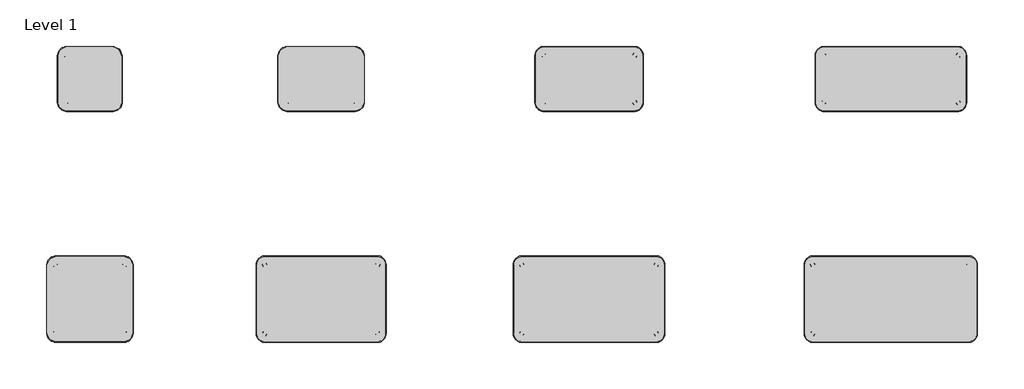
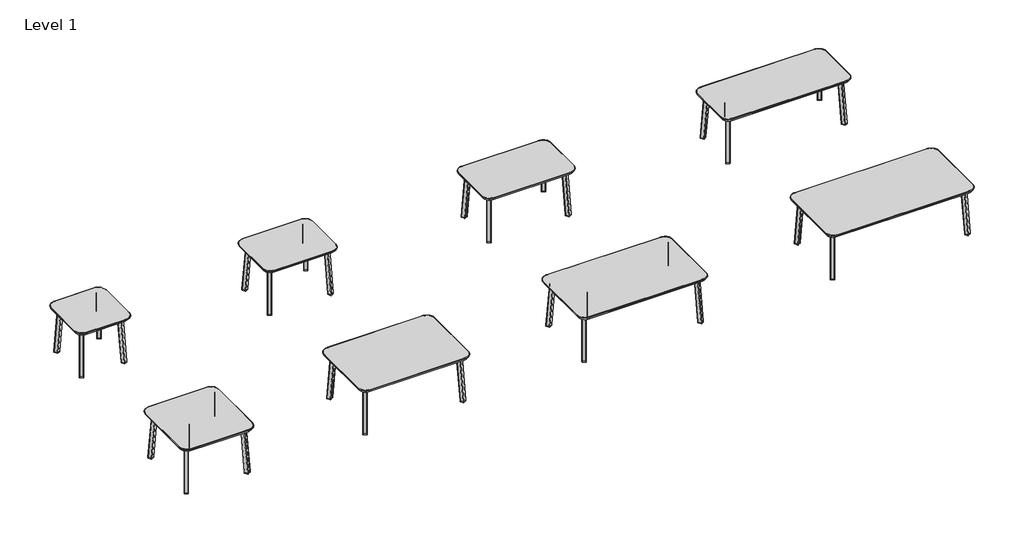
# One storey: 8 furniture elements.
"""IFC4 building model written with IfcOpenShell, lengths in millimetres."""

from ifc_helpers import new_model, si_unit, origin, place, context, project, spatial, transform, mapped, element, save
from components import furniture_45480bbe, furniture_00482987, furniture_792aba99, furniture_e1ee54df, furniture_91481f12, furniture_a8947b07, furniture_d7f64a44, furniture_fc7ac903

model = new_model("IFC4")

# Units and contexts
model_context = context("Model", 3, world=origin())
ifc_project = project(units=[si_unit("LENGTHUNIT", "METRE", prefix="MILLI")], contexts=[model_context])

# Site, building, storey
site = spatial("IfcSite", under=ifc_project)
building = spatial("IfcBuilding", under=site)
storey = spatial("IfcBuildingStorey", under=building, Name="Level 1", Elevation=0.0)

# Furniture
placement = place(None, origin())
furniture_shape = furniture_45480bbe(model_context)
element("IfcFurniture", 1, ObjectType="Stance_HC-Jensen-Occasional-Table : JETF181816-T", at=placement, inside=storey, context=model_context, shape_type="MappedRepresentation", body=[
    mapped(furniture_shape, transform((-19076.0264766, 6201.7042955, 0.0), x_axis=(1.0, 0.0, 0.0), y_axis=(0.0, 1.0, 0.0), z_axis=(0.0, 0.0, 1.0))),
])
furniture_2_shape = furniture_00482987(model_context)
element("IfcFurniture", 2, ObjectType="Stance_HC-Jensen-Occasional-Table : JETF182416-T", at=placement, inside=storey, context=model_context, shape_type="MappedRepresentation", body=[
    mapped(furniture_2_shape, transform((-17448.8007419, 6201.7042955, 0.0), x_axis=(1.0, 0.0, 0.0), y_axis=(0.0, 1.0, 0.0), z_axis=(0.0, 0.0, 1.0))),
])
furniture_3_shape = furniture_792aba99(model_context)
element("IfcFurniture", 3, ObjectType="Stance_HC-Jensen-Occasional-Table : JETF183016-T", at=placement, inside=storey, context=model_context, shape_type="MappedRepresentation", body=[
    mapped(furniture_3_shape, transform((-15563.6751619, 6201.7042955, 0.0), x_axis=(1.0, 0.0, 0.0), y_axis=(0.0, 1.0, 0.0), z_axis=(0.0, 0.0, 1.0))),
])
furniture_4_shape = furniture_e1ee54df(model_context)
element("IfcFurniture", 4, ObjectType="Stance_HC-Jensen-Occasional-Table : JETF184216-T", at=placement, inside=storey, context=model_context, shape_type="MappedRepresentation", body=[
    mapped(furniture_4_shape, transform((-13440.5201823, 6201.7042955, 0.0), x_axis=(1.0, 0.0, 0.0), y_axis=(0.0, 1.0, 0.0), z_axis=(0.0, 0.0, 1.0))),
])
furniture_5_shape = furniture_91481f12(model_context)
element("IfcFurniture", 5, ObjectType="Stance_HC-Jensen-Occasional-Table : JETF242416-T", at=placement, inside=storey, context=model_context, shape_type="MappedRepresentation", body=[
    mapped(furniture_5_shape, transform((-19076.0264766, 4649.9023037, 0.0), x_axis=(1.0, 0.0, 0.0), y_axis=(0.0, 1.0, 0.0), z_axis=(0.0, 0.0, 1.0))),
])
furniture_6_shape = furniture_a8947b07(model_context)
element("IfcFurniture", 6, ObjectType="Stance_HC-Jensen-Occasional-Table : JETF243616-T", at=placement, inside=storey, context=model_context, shape_type="MappedRepresentation", body=[
    mapped(furniture_6_shape, transform((-17448.8007419, 4649.9023037, 0.0), x_axis=(1.0, 0.0, 0.0), y_axis=(0.0, 1.0, 0.0), z_axis=(0.0, 0.0, 1.0))),
])
furniture_7_shape = furniture_d7f64a44(model_context)
element("IfcFurniture", 7, ObjectType="Stance_HC-Jensen-Occasional-Table : JETF244216-T", at=placement, inside=storey, context=model_context, shape_type="MappedRepresentation", body=[
    mapped(furniture_7_shape, transform((-15563.6751619, 4649.9023037, 0.0), x_axis=(-1.0000000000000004, 0.0, 0.0), y_axis=(0.0, -1.0000000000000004, 0.0), z_axis=(0.0, 0.0, 1.0))),
])
furniture_8_shape = furniture_fc7ac903(model_context)
element("IfcFurniture", 8, ObjectType="Stance_HC-Jensen-Occasional-Table : JETF244816-T", at=placement, inside=storey, context=model_context, shape_type="MappedRepresentation", body=[
    mapped(furniture_8_shape, transform((-13440.5201823, 4649.9023037, 0.0), x_axis=(1.0, 0.0, 0.0), y_axis=(0.0, 1.0, 0.0), z_axis=(0.0, 0.0, 1.0))),
])

save(model, "model.ifc")
